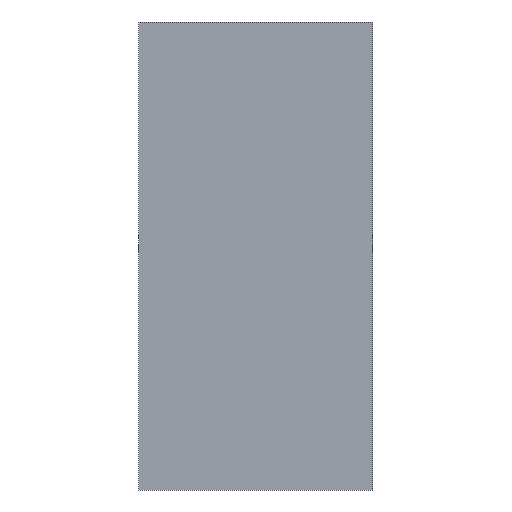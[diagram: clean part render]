
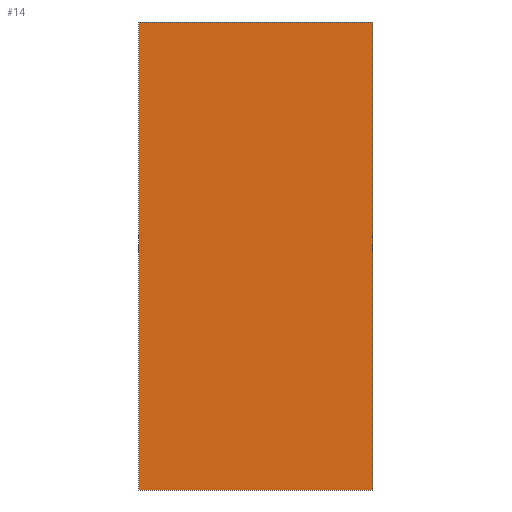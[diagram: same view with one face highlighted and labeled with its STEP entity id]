
A CAD part, front view. The second image highlights one B-rep face of the part: STEP entity #14.
In plain terms, the highlighted planar face has unit normal (0, -1, 0).
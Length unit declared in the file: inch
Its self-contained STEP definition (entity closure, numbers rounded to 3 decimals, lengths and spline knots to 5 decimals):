
#14=ADVANCED_FACE('',(#20),#88,.T.);
#20=FACE_OUTER_BOUND('',#26,.T.);
#26=EDGE_LOOP('',(#32,#33,#34,#35));
#32=ORIENTED_EDGE('',*,*,#56,.T.);
#33=ORIENTED_EDGE('',*,*,#65,.T.);
#34=ORIENTED_EDGE('',*,*,#60,.F.);
#35=ORIENTED_EDGE('',*,*,#64,.F.);
#56=EDGE_CURVE('',#80,#81,#68,.T.);
#60=EDGE_CURVE('',#84,#85,#72,.T.);
#64=EDGE_CURVE('',#80,#84,#76,.T.);
#65=EDGE_CURVE('',#81,#85,#77,.T.);
#68=B_SPLINE_CURVE_WITH_KNOTS('',1,(#217,#218),.UNSPECIFIED.,.F.,.F.,(2,
2),(0.,5.),.UNSPECIFIED.);
#72=B_SPLINE_CURVE_WITH_KNOTS('',1,(#225,#226),.UNSPECIFIED.,.F.,.F.,(2,
2),(0.,5.),.UNSPECIFIED.);
#76=B_SPLINE_CURVE_WITH_KNOTS('',1,(#233,#234),.UNSPECIFIED.,.F.,.F.,(2,
2),(0.,10.),.UNSPECIFIED.);
#77=B_SPLINE_CURVE_WITH_KNOTS('',1,(#235,#236),.UNSPECIFIED.,.F.,.F.,(2,
2),(0.,10.),.UNSPECIFIED.);
#80=VERTEX_POINT('',#209);
#81=VERTEX_POINT('',#210);
#84=VERTEX_POINT('',#213);
#85=VERTEX_POINT('',#214);
#88=PLANE('',#185);
#185=AXIS2_PLACEMENT_3D('',#203,#194,$);
#194=DIRECTION('',(0.,-1.,0.));
#203=CARTESIAN_POINT('',(0.,0.,0.));
#209=CARTESIAN_POINT('',(0.,0.,0.));
#210=CARTESIAN_POINT('',(5.,0.,0.));
#213=CARTESIAN_POINT('',(0.,0.,10.));
#214=CARTESIAN_POINT('',(5.,0.,10.));
#217=CARTESIAN_POINT('',(0.,0.,0.));
#218=CARTESIAN_POINT('',(5.,0.,0.));
#225=CARTESIAN_POINT('',(0.,0.,10.));
#226=CARTESIAN_POINT('',(5.,0.,10.));
#233=CARTESIAN_POINT('',(0.,0.,0.));
#234=CARTESIAN_POINT('',(0.,0.,10.));
#235=CARTESIAN_POINT('',(5.,0.,0.));
#236=CARTESIAN_POINT('',(5.,0.,10.));
